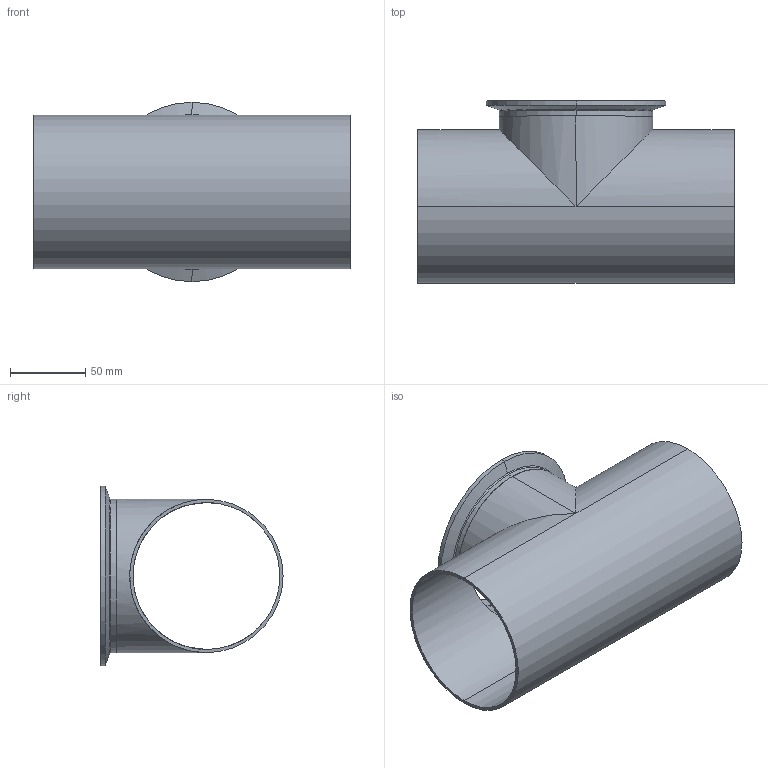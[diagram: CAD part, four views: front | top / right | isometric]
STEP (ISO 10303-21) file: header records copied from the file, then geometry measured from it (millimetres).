
FILE_DESCRIPTION (( 'STEP AP214' ), '1' );
FILE_NAME ('TE7WWCS6L4.0-...STEP', '2016-05-24T12:15:49', ( 'eran' ), ( '' ), 'SwSTEP 2.0', 'SolidWorks 2016', '' );
FILE_SCHEMA (( 'AUTOMOTIVE_DESIGN' ));
Length unit declared in the file: millimetre
Products named in the file (1): TE7WWCS6L4.0-..
Bounding box: 209.6 x 120.7 x 118.92 mm (x, y, z)
Volume: 155661.9 mm3; surface area: 144016 mm2
Topology: 2 solids, 2 shells, 38 faces, 92 edges, 58 vertices
Faces by surface type: cylinder 16, bspline 10, plane 6, cone 6
Entity records: 3229 total; most frequent: CARTESIAN_POINT 2318, ORIENTED_EDGE 184, DIRECTION 180, EDGE_CURVE 92, AXIS2_PLACEMENT_3D 78, VERTEX_POINT 58, CIRCLE 49, EDGE_LOOP 44
